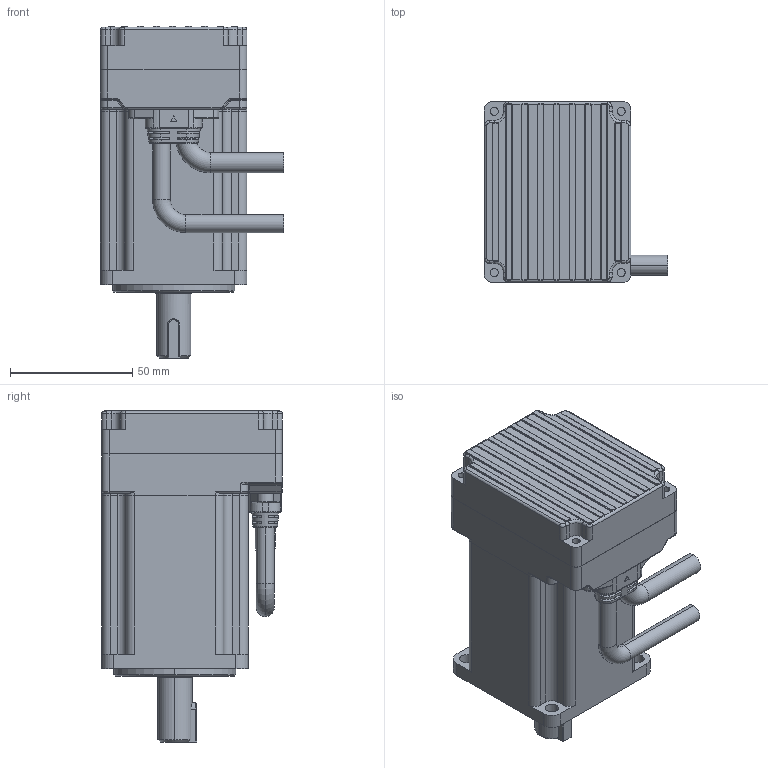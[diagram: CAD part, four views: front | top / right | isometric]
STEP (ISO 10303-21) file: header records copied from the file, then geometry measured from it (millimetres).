
FILE_DESCRIPTION((''),'2;1');
FILE_NAME('000-ISMK60-040-DMAK-AA-000','2023-11-16T17:03:08',('RD0060'),(''),'CREO PARAMETRIC BY PTC INC, 2016510','CREO PARAMETRIC BY PTC INC, 2016510','');
FILE_SCHEMA(('CONFIG_CONTROL_DESIGN'));
Length unit declared in the file: millimetre
Products named in the file (1): 000-ISMK60-040-DMAK-AA-000
Bounding box: 75 x 74 x 136 mm (x, y, z)
Surface area: 50493.1 mm2 (no closed solid volume)
Topology: 0 solids, 18 shells, 567 faces, 1743 edges, 1155 vertices
Faces by surface type: cylinder 261, plane 209, torus 48, bspline 34, cone 15
Entity records: 21878 total; most frequent: CARTESIAN_POINT 6511, DIRECTION 3353, ORIENTED_EDGE 2938, EDGE_CURVE 1741, AXIS2_PLACEMENT_3D 1264, VERTEX_POINT 1155, VECTOR 825, LINE 825
